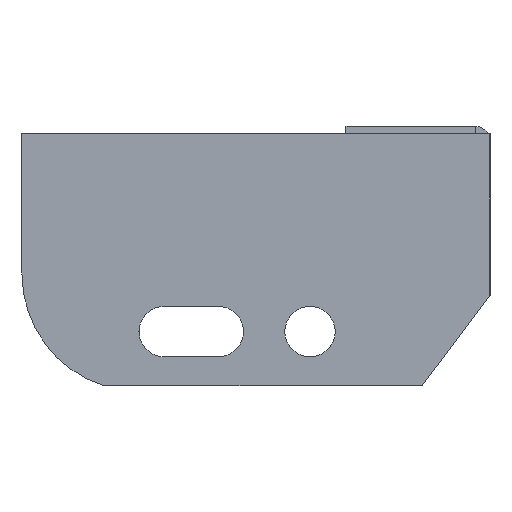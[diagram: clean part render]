
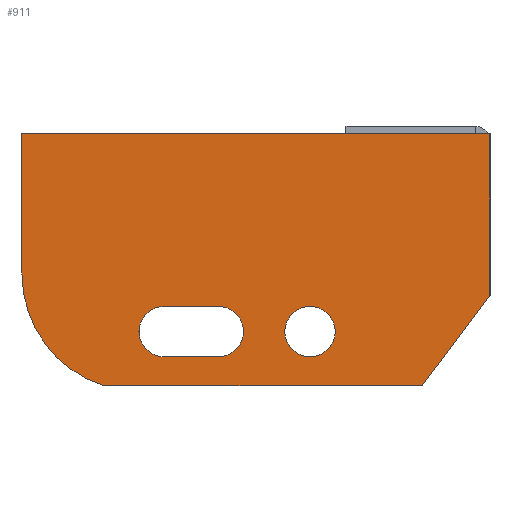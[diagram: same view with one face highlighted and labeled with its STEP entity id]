
A CAD part, left-side view. The second image highlights one B-rep face of the part: STEP entity #911.
In plain terms, the highlighted planar face has unit normal (-1, 0, 0) as drawn and (0, 0, 1) by its records, which use the part's own axes.
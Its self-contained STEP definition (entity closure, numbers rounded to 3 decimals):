
#10 = DIRECTION ( 'NONE',  ( 1., 0., 0. ) ) ;
#37 = CARTESIAN_POINT ( 'NONE',  ( -90.5, -62., 3. ) ) ;
#39 = VERTEX_POINT ( 'NONE', #1994 ) ;
#52 = EDGE_CURVE ( 'NONE', #1041, #1851, #1683, .T. ) ;
#55 = DIRECTION ( 'NONE',  ( 1., 0., 0. ) ) ;
#60 = CARTESIAN_POINT ( 'NONE',  ( 0., 0., 3. ) ) ;
#71 = VERTEX_POINT ( 'NONE', #149 ) ;
#75 = CIRCLE ( 'NONE', #246, 32.5 ) ;
#108 = ORIENTED_EDGE ( 'NONE', *, *, #641, .T. ) ;
#122 = CARTESIAN_POINT ( 'NONE',  ( -130., -39., 3. ) ) ;
#125 = DIRECTION ( 'NONE',  ( -1., 0., 0. ) ) ;
#149 = CARTESIAN_POINT ( 'NONE',  ( 0., -45., 3. ) ) ;
#172 = DIRECTION ( 'NONE',  ( 1., 0., 0. ) ) ;
#179 = VERTEX_POINT ( 'NONE', #187 ) ;
#187 = CARTESIAN_POINT ( 'NONE',  ( -107.26, -70., 3. ) ) ;
#246 = AXIS2_PLACEMENT_3D ( 'NONE', #1542, #1677, #751 ) ;
#250 = CARTESIAN_POINT ( 'NONE',  ( -43., -55., 3. ) ) ;
#251 = ORIENTED_EDGE ( 'NONE', *, *, #1646, .F. ) ;
#280 = DIRECTION ( 'NONE',  ( 1., 0., 0. ) ) ;
#289 = VERTEX_POINT ( 'NONE', #37 ) ;
#324 = CIRCLE ( 'NONE', #829, 7. ) ;
#338 = CIRCLE ( 'NONE', #1485, 7. ) ;
#342 = CARTESIAN_POINT ( 'NONE',  ( -90.5, -55., 3. ) ) ;
#382 = VERTEX_POINT ( 'NONE', #250 ) ;
#394 = EDGE_CURVE ( 'NONE', #532, #1608, #324, .T. ) ;
#398 = CIRCLE ( 'NONE', #667, 7. ) ;
#428 = CARTESIAN_POINT ( 'NONE',  ( -18.839, -70., 3. ) ) ;
#432 = LINE ( 'NONE', #894, #1186 ) ;
#442 = ORIENTED_EDGE ( 'NONE', *, *, #961, .T. ) ;
#460 = VECTOR ( 'NONE', #125, 1000. ) ;
#470 = EDGE_LOOP ( 'NONE', ( #442, #1402, #1014, #108, #1847, #1878 ) ) ;
#494 = ORIENTED_EDGE ( 'NONE', *, *, #1322, .F. ) ;
#505 = VECTOR ( 'NONE', #692, 1000. ) ;
#528 = EDGE_LOOP ( 'NONE', ( #1773, #251, #1640, #892, #1478 ) ) ;
#532 = VERTEX_POINT ( 'NONE', #1352 ) ;
#630 = LINE ( 'NONE', #1865, #1604 ) ;
#639 = LINE ( 'NONE', #1250, #1837 ) ;
#641 = EDGE_CURVE ( 'NONE', #1327, #179, #75, .T. ) ;
#667 = AXIS2_PLACEMENT_3D ( 'NONE', #1027, #903, #732 ) ;
#692 = DIRECTION ( 'NONE',  ( 0., 1., 0. ) ) ;
#705 = DIRECTION ( 'NONE',  ( 0., 0., 1. ) ) ;
#709 = AXIS2_PLACEMENT_3D ( 'NONE', #1931, #1421, #10 ) ;
#732 = DIRECTION ( 'NONE',  ( 1., 0., 0. ) ) ;
#741 = CARTESIAN_POINT ( 'NONE',  ( -75.5, -55., 3. ) ) ;
#745 = EDGE_CURVE ( 'NONE', #907, #750, #338, .T. ) ;
#750 = VERTEX_POINT ( 'NONE', #893 ) ;
#751 = DIRECTION ( 'NONE',  ( 1., 0., 0. ) ) ;
#794 = EDGE_CURVE ( 'NONE', #750, #532, #639, .T. ) ;
#806 = FACE_BOUND ( 'NONE', #528, .T. ) ;
#812 = PLANE ( 'NONE',  #709 ) ;
#816 = EDGE_CURVE ( 'NONE', #289, #907, #1315, .T. ) ;
#829 = AXIS2_PLACEMENT_3D ( 'NONE', #1340, #705, #1312 ) ;
#831 = EDGE_CURVE ( 'NONE', #39, #71, #630, .T. ) ;
#847 = VECTOR ( 'NONE', #280, 1000. ) ;
#859 = DIRECTION ( 'NONE',  ( 0., 0., 1. ) ) ;
#874 = EDGE_LOOP ( 'NONE', ( #494, #947 ) ) ;
#892 = ORIENTED_EDGE ( 'NONE', *, *, #794, .F. ) ;
#893 = CARTESIAN_POINT ( 'NONE',  ( -75.5, -48., 3. ) ) ;
#894 = CARTESIAN_POINT ( 'NONE',  ( -130., 0., 3. ) ) ;
#903 = DIRECTION ( 'NONE',  ( 0., 0., 1. ) ) ;
#907 = VERTEX_POINT ( 'NONE', #1575 ) ;
#911 = ADVANCED_FACE ( 'NONE', ( #1722, #1568, #806 ), #812, .T. ) ;
#919 = LINE ( 'NONE', #428, #847 ) ;
#947 = ORIENTED_EDGE ( 'NONE', *, *, #1719, .F. ) ;
#959 = CIRCLE ( 'NONE', #1633, 7. ) ;
#961 = EDGE_CURVE ( 'NONE', #71, #1041, #1464, .T. ) ;
#973 = DIRECTION ( 'NONE',  ( 0., 0., 1. ) ) ;
#976 = CARTESIAN_POINT ( 'NONE',  ( -57., -55., 3. ) ) ;
#1014 = ORIENTED_EDGE ( 'NONE', *, *, #1447, .T. ) ;
#1027 = CARTESIAN_POINT ( 'NONE',  ( -50., -55., 3. ) ) ;
#1041 = VERTEX_POINT ( 'NONE', #1487 ) ;
#1052 = CIRCLE ( 'NONE', #1414, 7. ) ;
#1067 = CARTESIAN_POINT ( 'NONE',  ( -97.5, -55., 3. ) ) ;
#1087 = DIRECTION ( 'NONE',  ( 0., 0., 1. ) ) ;
#1136 = CARTESIAN_POINT ( 'NONE',  ( -50., -55., 3. ) ) ;
#1186 = VECTOR ( 'NONE', #1509, 1000. ) ;
#1237 = EDGE_CURVE ( 'NONE', #179, #39, #919, .T. ) ;
#1250 = CARTESIAN_POINT ( 'NONE',  ( -90.5, -48., 3. ) ) ;
#1257 = DIRECTION ( 'NONE',  ( 0.602, 0.799, 0. ) ) ;
#1312 = DIRECTION ( 'NONE',  ( 1., 0., 0. ) ) ;
#1315 = LINE ( 'NONE', #1551, #1515 ) ;
#1322 = EDGE_CURVE ( 'NONE', #1756, #382, #398, .T. ) ;
#1327 = VERTEX_POINT ( 'NONE', #122 ) ;
#1340 = CARTESIAN_POINT ( 'NONE',  ( -90.5, -55., 3. ) ) ;
#1352 = CARTESIAN_POINT ( 'NONE',  ( -90.5, -48., 3. ) ) ;
#1402 = ORIENTED_EDGE ( 'NONE', *, *, #52, .T. ) ;
#1414 = AXIS2_PLACEMENT_3D ( 'NONE', #342, #973, #1738 ) ;
#1421 = DIRECTION ( 'NONE',  ( 0., 0., 1. ) ) ;
#1428 = DIRECTION ( 'NONE',  ( -1., 0., 0. ) ) ;
#1447 = EDGE_CURVE ( 'NONE', #1851, #1327, #432, .T. ) ;
#1464 = LINE ( 'NONE', #60, #505 ) ;
#1478 = ORIENTED_EDGE ( 'NONE', *, *, #745, .F. ) ;
#1485 = AXIS2_PLACEMENT_3D ( 'NONE', #741, #1087, #1496 ) ;
#1487 = CARTESIAN_POINT ( 'NONE',  ( 0., 0., 3. ) ) ;
#1496 = DIRECTION ( 'NONE',  ( 1., 0., 0. ) ) ;
#1509 = DIRECTION ( 'NONE',  ( 0., -1., 0. ) ) ;
#1515 = VECTOR ( 'NONE', #172, 1000. ) ;
#1542 = CARTESIAN_POINT ( 'NONE',  ( -97.5, -39., 3. ) ) ;
#1546 = CARTESIAN_POINT ( 'NONE',  ( 0., 0., 3. ) ) ;
#1551 = CARTESIAN_POINT ( 'NONE',  ( -90.5, -62., 3. ) ) ;
#1568 = FACE_BOUND ( 'NONE', #874, .T. ) ;
#1575 = CARTESIAN_POINT ( 'NONE',  ( -75.5, -62., 3. ) ) ;
#1604 = VECTOR ( 'NONE', #1257, 1000. ) ;
#1608 = VERTEX_POINT ( 'NONE', #1067 ) ;
#1633 = AXIS2_PLACEMENT_3D ( 'NONE', #1136, #859, #55 ) ;
#1640 = ORIENTED_EDGE ( 'NONE', *, *, #394, .F. ) ;
#1646 = EDGE_CURVE ( 'NONE', #1608, #289, #1052, .T. ) ;
#1677 = DIRECTION ( 'NONE',  ( 0., 0., 1. ) ) ;
#1683 = LINE ( 'NONE', #1546, #460 ) ;
#1719 = EDGE_CURVE ( 'NONE', #382, #1756, #959, .T. ) ;
#1722 = FACE_OUTER_BOUND ( 'NONE', #470, .T. ) ;
#1738 = DIRECTION ( 'NONE',  ( 1., 0., 0. ) ) ;
#1756 = VERTEX_POINT ( 'NONE', #976 ) ;
#1767 = CARTESIAN_POINT ( 'NONE',  ( -130., 0., 3. ) ) ;
#1773 = ORIENTED_EDGE ( 'NONE', *, *, #816, .F. ) ;
#1837 = VECTOR ( 'NONE', #1428, 1000. ) ;
#1847 = ORIENTED_EDGE ( 'NONE', *, *, #1237, .T. ) ;
#1851 = VERTEX_POINT ( 'NONE', #1767 ) ;
#1865 = CARTESIAN_POINT ( 'NONE',  ( 0., -45., 3. ) ) ;
#1878 = ORIENTED_EDGE ( 'NONE', *, *, #831, .T. ) ;
#1931 = CARTESIAN_POINT ( 'NONE',  ( -97.5, -39., 3. ) ) ;
#1994 = CARTESIAN_POINT ( 'NONE',  ( -18.839, -70., 3. ) ) ;
